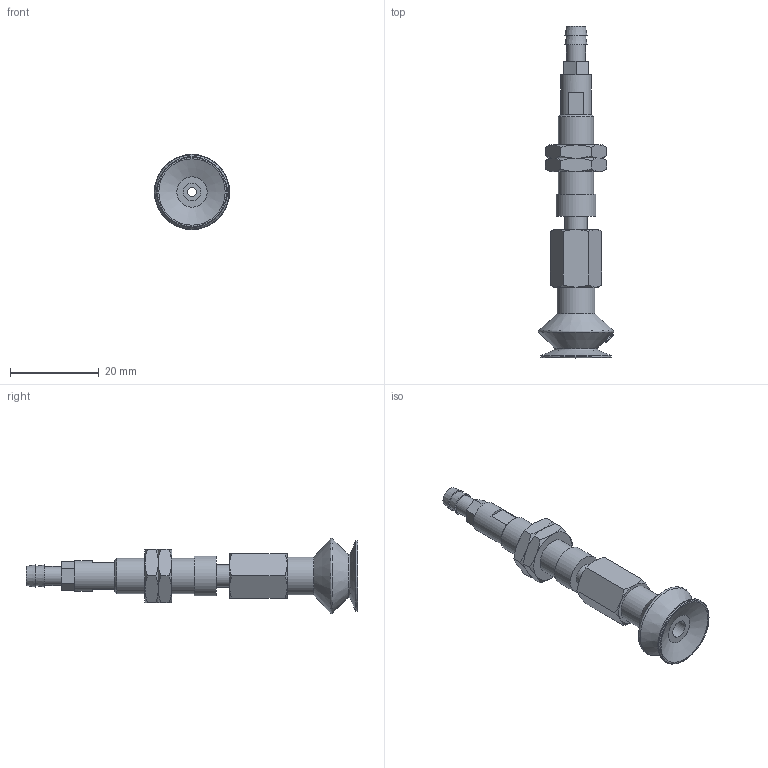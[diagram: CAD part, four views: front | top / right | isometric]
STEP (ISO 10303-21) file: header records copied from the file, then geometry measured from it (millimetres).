
FILE_DESCRIPTION(('STEP AP203'),'1');
FILE_NAME('-T.stp','2025-08-27T01:04:20',(' '),(' '),'Spatial InterOp 3D',' ',' ');
FILE_SCHEMA(('CONFIG_CONTROL_DESIGN'));
Length unit declared in the file: millimetre
Products named in the file (9): BNABPBTS-15A-3-※-T; ADAPTER; NAPATS-10A-3--M; Nut-15A-S-PB; NAPBTS-15A-3--F; BPBG-15A-※; __27; BPBG-15A; T
Assembly tree (9 placements, depth 3):
  BNABPBTS-15A-3-※-T
    ADAPTER
    NAPATS-10A-3--M
    Nut-15A-S-PB  x2
    NAPBTS-15A-3--F
    BPBG-15A-※
      __27
      BPBG-15A
    T
Bounding box: 17 x 75 x 17 mm (x, y, z)
Volume: 4652.5 mm3; surface area: 5107 mm2
Topology: 8 solids, 8 shells, 146 faces, 307 edges, 189 vertices
Faces by surface type: plane 54, cone 53, cylinder 20, torus 11, bspline 8
Full cylindrical faces by diameter (mm): 2 x2, 3 x1, 4 x3, 4.134 x1, 4.3 x1, 5 x3, 6 x2, 7 x1, 7.188 x2, 8 x1, 8.5 x1, 9 x1, 16 x1
Entity records: 4743 total; most frequent: CARTESIAN_POINT 1956, DIRECTION 483, ORIENTED_EDGE 408, AXIS2_PLACEMENT_3D 218, EDGE_CURVE 204, EDGE_LOOP 189, FACE_OUTER_BOUND 153, VERTEX_POINT 149
